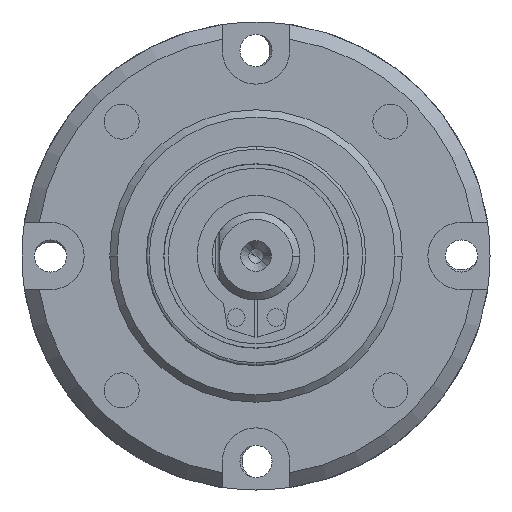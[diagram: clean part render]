
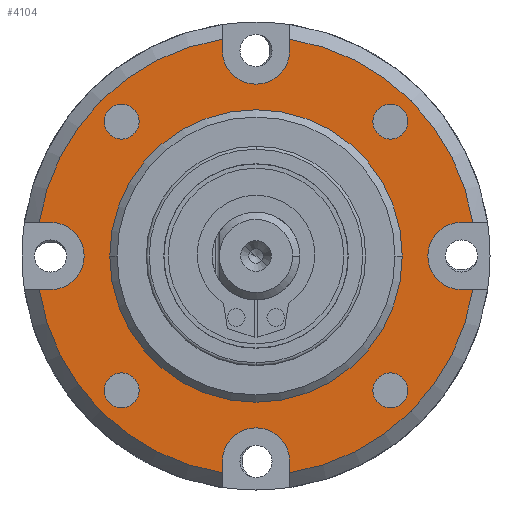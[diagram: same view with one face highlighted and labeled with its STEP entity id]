
A CAD part, left-side view. The second image highlights one B-rep face of the part: STEP entity #4104.
In plain terms, the highlighted planar face has unit normal (-1, 0, 0).
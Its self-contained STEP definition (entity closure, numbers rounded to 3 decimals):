
#646=CARTESIAN_POINT('',(-6.5,-14.823,
-2.3));
#668=CARTESIAN_POINT('',(-6.5,-2.3,
-14.823));
#695=CARTESIAN_POINT('',(-6.5,2.3,-14.823));
#717=CARTESIAN_POINT('',(-6.5,14.823,-2.3));
#744=CARTESIAN_POINT('',(-6.5,14.823,2.3));
#766=CARTESIAN_POINT('',(-6.5,2.3,14.823));
#793=CARTESIAN_POINT('',(-6.5,-2.3,14.823));
#815=CARTESIAN_POINT('',(-6.5,-14.823,2.3));
#827=CARTESIAN_POINT('',(-6.5,0.,0.));
#828=DIRECTION('',(-1.,0.,0.));
#829=DIRECTION('',(0.,0.153,0.988));
#830=AXIS2_PLACEMENT_3D('',#827,#828,#829);
#835=DIRECTION('',(0.,0.,-1.));
#836=VECTOR('',#835,0.773);
#837=CARTESIAN_POINT('',(-6.5,2.3,14.823));
#838=LINE('',#837,#836);
#842=CARTESIAN_POINT('',(-6.5,0.,14.05));
#843=DIRECTION('',(-1.,0.,0.));
#844=DIRECTION('',(0.,1.,0.));
#845=AXIS2_PLACEMENT_3D('',#842,#843,#844);
#850=DIRECTION('',(0.,0.,-1.));
#851=VECTOR('',#850,0.773);
#852=CARTESIAN_POINT('',(-6.5,-2.3,14.823));
#853=LINE('',#852,#851);
#857=CARTESIAN_POINT('',(-6.5,0.,0.));
#858=DIRECTION('',(-1.,0.,0.));
#859=DIRECTION('',(0.,-0.988,0.153));
#860=AXIS2_PLACEMENT_3D('',#857,#858,#859);
#865=DIRECTION('',(0.,1.,0.));
#866=VECTOR('',#865,0.773);
#867=CARTESIAN_POINT('',(-6.5,-14.823,2.3));
#868=LINE('',#867,#866);
#872=CARTESIAN_POINT('',(-6.5,-14.05,0.));
#873=DIRECTION('',(-1.,0.,0.));
#874=DIRECTION('',(0.,0.,1.));
#875=AXIS2_PLACEMENT_3D('',#872,#873,#874);
#880=DIRECTION('',(0.,1.,0.));
#881=VECTOR('',#880,0.773);
#882=CARTESIAN_POINT('',(-6.5,-14.823,
-2.3));
#883=LINE('',#882,#881);
#887=CARTESIAN_POINT('',(-6.5,0.,0.));
#888=DIRECTION('',(-1.,0.,0.));
#889=DIRECTION('',(0.,-0.153,-0.988));
#890=AXIS2_PLACEMENT_3D('',#887,#888,#889);
#895=DIRECTION('',(0.,0.,1.));
#896=VECTOR('',#895,0.773);
#897=CARTESIAN_POINT('',(-6.5,-2.3,
-14.823));
#898=LINE('',#897,#896);
#902=CARTESIAN_POINT('',(-6.5,0.,-14.05));
#903=DIRECTION('',(-1.,0.,0.));
#904=DIRECTION('',(0.,-1.,0.));
#905=AXIS2_PLACEMENT_3D('',#902,#903,#904);
#910=DIRECTION('',(0.,0.,1.));
#911=VECTOR('',#910,0.773);
#912=CARTESIAN_POINT('',(-6.5,2.3,-14.823));
#913=LINE('',#912,#911);
#917=CARTESIAN_POINT('',(-6.5,0.,0.));
#918=DIRECTION('',(-1.,0.,0.));
#919=DIRECTION('',(0.,0.988,-0.153));
#920=AXIS2_PLACEMENT_3D('',#917,#918,#919);
#925=DIRECTION('',(0.,-1.,0.));
#926=VECTOR('',#925,0.773);
#927=CARTESIAN_POINT('',(-6.5,14.823,-2.3));
#928=LINE('',#927,#926);
#932=CARTESIAN_POINT('',(-6.5,14.05,0.));
#933=DIRECTION('',(-1.,0.,0.));
#934=DIRECTION('',(0.,0.,-1.));
#935=AXIS2_PLACEMENT_3D('',#932,#933,#934);
#940=DIRECTION('',(0.,-1.,0.));
#941=VECTOR('',#940,0.773);
#942=CARTESIAN_POINT('',(-6.5,14.823,2.3));
#943=LINE('',#942,#941);
#947=CARTESIAN_POINT('',(-6.5,9.192,-9.192));
#948=DIRECTION('',(1.,0.,0.));
#949=DIRECTION('',(0.,1.,0.));
#950=AXIS2_PLACEMENT_3D('',#947,#948,#949);
#955=CARTESIAN_POINT('',(-6.5,9.192,-9.192));
#956=DIRECTION('',(1.,0.,0.));
#957=DIRECTION('',(0.,-1.,0.));
#958=AXIS2_PLACEMENT_3D('',#955,#956,#957);
#963=CARTESIAN_POINT('',(-6.5,-9.192,-9.192));
#964=DIRECTION('',(1.,0.,0.));
#965=DIRECTION('',(0.,0.,-1.));
#966=AXIS2_PLACEMENT_3D('',#963,#964,#965);
#971=CARTESIAN_POINT('',(-6.5,-9.192,-9.192));
#972=DIRECTION('',(1.,0.,0.));
#973=DIRECTION('',(0.,0.,1.));
#974=AXIS2_PLACEMENT_3D('',#971,#972,#973);
#979=CARTESIAN_POINT('',(-6.5,-9.192,9.192));
#980=DIRECTION('',(1.,0.,0.));
#981=DIRECTION('',(0.,-1.,0.));
#982=AXIS2_PLACEMENT_3D('',#979,#980,#981);
#987=CARTESIAN_POINT('',(-6.5,-9.192,9.192));
#988=DIRECTION('',(1.,0.,0.));
#989=DIRECTION('',(0.,1.,0.));
#990=AXIS2_PLACEMENT_3D('',#987,#988,#989);
#995=CARTESIAN_POINT('',(-6.5,9.192,9.192));
#996=DIRECTION('',(1.,0.,0.));
#997=DIRECTION('',(0.,0.,1.));
#998=AXIS2_PLACEMENT_3D('',#995,#996,#997);
#1003=CARTESIAN_POINT('',(-6.5,9.192,9.192));
#1004=DIRECTION('',(1.,0.,0.));
#1005=DIRECTION('',(0.,0.,-1.));
#1006=AXIS2_PLACEMENT_3D('',#1003,#1004,#1005);
#1040=CARTESIAN_POINT('',(-6.5,0.,0.));
#1041=DIRECTION('',(-1.,0.,0.));
#1042=DIRECTION('',(0.,1.,0.));
#1043=AXIS2_PLACEMENT_3D('',#1040,#1041,#1042);
#1109=CARTESIAN_POINT('',(-6.5,0.,0.));
#1110=DIRECTION('',(1.,0.,0.));
#1111=DIRECTION('',(0.,1.,0.));
#1112=AXIS2_PLACEMENT_3D('',#1109,#1110,#1111);
#2863=CARTESIAN_POINT('',(-6.5,10.,0.));
#2864=CARTESIAN_POINT('',(-6.5,-10.,0.));
#2865=VERTEX_POINT('',#2863);
#2866=VERTEX_POINT('',#2864);
#2879=CARTESIAN_POINT('',(-6.5,14.05,-2.3));
#2880=CARTESIAN_POINT('',(-6.5,14.05,2.3));
#2881=VERTEX_POINT('',#2879);
#2882=VERTEX_POINT('',#2880);
#2897=CARTESIAN_POINT('',(-6.5,-2.3,-14.05));
#2898=VERTEX_POINT('',#2897);
#2899=CARTESIAN_POINT('',(-6.5,2.3,-14.05));
#2900=VERTEX_POINT('',#2899);
#2909=CARTESIAN_POINT('',(-6.5,-14.05,2.3));
#2910=VERTEX_POINT('',#2909);
#2911=CARTESIAN_POINT('',(-6.5,-14.05,-2.3));
#2912=VERTEX_POINT('',#2911);
#2921=CARTESIAN_POINT('',(-6.5,2.3,14.05));
#2922=VERTEX_POINT('',#2921);
#2923=CARTESIAN_POINT('',(-6.5,-2.3,14.05));
#2924=VERTEX_POINT('',#2923);
#2951=VERTEX_POINT('',#744);
#2955=VERTEX_POINT('',#766);
#2956=VERTEX_POINT('',#695);
#2960=VERTEX_POINT('',#717);
#2961=VERTEX_POINT('',#646);
#2965=VERTEX_POINT('',#668);
#2966=VERTEX_POINT('',#793);
#2970=VERTEX_POINT('',#815);
#2983=CARTESIAN_POINT('',(-6.5,10.392,-9.192));
#2984=CARTESIAN_POINT('',(-6.5,7.992,-9.192));
#2985=VERTEX_POINT('',#2983);
#2986=VERTEX_POINT('',#2984);
#2995=CARTESIAN_POINT('',(-6.5,-9.192,-10.392));
#2996=VERTEX_POINT('',#2995);
#2997=CARTESIAN_POINT('',(-6.5,-9.192,-7.992));
#2998=VERTEX_POINT('',#2997);
#3003=CARTESIAN_POINT('',(-6.5,-10.392,9.192));
#3004=VERTEX_POINT('',#3003);
#3005=CARTESIAN_POINT('',(-6.5,-7.992,9.192));
#3006=VERTEX_POINT('',#3005);
#3011=CARTESIAN_POINT('',(-6.5,9.192,10.392));
#3012=VERTEX_POINT('',#3011);
#3013=CARTESIAN_POINT('',(-6.5,9.192,7.992));
#3014=VERTEX_POINT('',#3013);
#4048=CARTESIAN_POINT('',(-6.5,0.,0.));
#4049=DIRECTION('',(-1.,0.,0.));
#4050=DIRECTION('',(0.,1.,0.));
#4051=AXIS2_PLACEMENT_3D('',#4048,#4049,#4050);
#4052=PLANE('',#4051);
#4053=ORIENTED_EDGE('',*,*,#3949,.F.);
#4054=ORIENTED_EDGE('',*,*,#3965,.T.);
#4056=ORIENTED_EDGE('',*,*,#4055,.T.);
#4057=ORIENTED_EDGE('',*,*,#3997,.F.);
#4058=ORIENTED_EDGE('',*,*,#4015,.F.);
#4059=ORIENTED_EDGE('',*,*,#4030,.T.);
#4060=ORIENTED_EDGE('',*,*,#4043,.T.);
#4061=ORIENTED_EDGE('',*,*,#3798,.F.);
#4062=ORIENTED_EDGE('',*,*,#3816,.F.);
#4063=ORIENTED_EDGE('',*,*,#3832,.T.);
#4065=ORIENTED_EDGE('',*,*,#4064,.T.);
#4066=ORIENTED_EDGE('',*,*,#3864,.F.);
#4067=ORIENTED_EDGE('',*,*,#3882,.F.);
#4068=ORIENTED_EDGE('',*,*,#3898,.T.);
#4070=ORIENTED_EDGE('',*,*,#4069,.T.);
#4071=ORIENTED_EDGE('',*,*,#3931,.F.);
#4072=EDGE_LOOP('',(#4053,#4054,#4056,#4057,#4058,#4059,#4060,#4061,#4062,#4063,
#4065,#4066,#4067,#4068,#4070,#4071));
#4073=FACE_OUTER_BOUND('',#4072,.F.);
#4075=ORIENTED_EDGE('',*,*,#4074,.T.);
#4077=ORIENTED_EDGE('',*,*,#4076,.F.);
#4078=EDGE_LOOP('',(#4075,#4077));
#4079=FACE_BOUND('',#4078,.F.);
#4081=ORIENTED_EDGE('',*,*,#4080,.F.);
#4083=ORIENTED_EDGE('',*,*,#4082,.F.);
#4084=EDGE_LOOP('',(#4081,#4083));
#4085=FACE_BOUND('',#4084,.F.);
#4087=ORIENTED_EDGE('',*,*,#4086,.F.);
#4089=ORIENTED_EDGE('',*,*,#4088,.F.);
#4090=EDGE_LOOP('',(#4087,#4089));
#4091=FACE_BOUND('',#4090,.F.);
#4093=ORIENTED_EDGE('',*,*,#4092,.F.);
#4095=ORIENTED_EDGE('',*,*,#4094,.F.);
#4096=EDGE_LOOP('',(#4093,#4095));
#4097=FACE_BOUND('',#4096,.F.);
#4099=ORIENTED_EDGE('',*,*,#4098,.F.);
#4101=ORIENTED_EDGE('',*,*,#4100,.F.);
#4102=EDGE_LOOP('',(#4099,#4101));
#4103=FACE_BOUND('',#4102,.F.);
#4104=ADVANCED_FACE('',(#4073,#4079,#4085,#4091,#4097,#4103),#4052,.T.);
#831=CIRCLE('',#830,15.);
#846=CIRCLE('',#845,2.3);
#861=CIRCLE('',#860,15.);
#876=CIRCLE('',#875,2.3);
#891=CIRCLE('',#890,15.);
#906=CIRCLE('',#905,2.3);
#921=CIRCLE('',#920,15.);
#936=CIRCLE('',#935,2.3);
#951=CIRCLE('',#950,1.2);
#959=CIRCLE('',#958,1.2);
#967=CIRCLE('',#966,1.2);
#975=CIRCLE('',#974,1.2);
#983=CIRCLE('',#982,1.2);
#991=CIRCLE('',#990,1.2);
#999=CIRCLE('',#998,1.2);
#1007=CIRCLE('',#1006,1.2);
#1044=CIRCLE('',#1043,10.);
#1113=CIRCLE('',#1112,10.);
#3798=EDGE_CURVE('',#2961,#2912,#883,.T.);
#3816=EDGE_CURVE('',#2965,#2961,#891,.T.);
#3832=EDGE_CURVE('',#2965,#2898,#898,.T.);
#3864=EDGE_CURVE('',#2956,#2900,#913,.T.);
#3882=EDGE_CURVE('',#2960,#2956,#921,.T.);
#3898=EDGE_CURVE('',#2960,#2881,#928,.T.);
#3931=EDGE_CURVE('',#2951,#2882,#943,.T.);
#3949=EDGE_CURVE('',#2955,#2951,#831,.T.);
#3965=EDGE_CURVE('',#2955,#2922,#838,.T.);
#3997=EDGE_CURVE('',#2966,#2924,#853,.T.);
#4015=EDGE_CURVE('',#2970,#2966,#861,.T.);
#4030=EDGE_CURVE('',#2970,#2910,#868,.T.);
#4043=EDGE_CURVE('',#2910,#2912,#876,.T.);
#4055=EDGE_CURVE('',#2922,#2924,#846,.T.);
#4064=EDGE_CURVE('',#2898,#2900,#906,.T.);
#4069=EDGE_CURVE('',#2881,#2882,#936,.T.);
#4074=EDGE_CURVE('',#2865,#2866,#1044,.T.);
#4076=EDGE_CURVE('',#2865,#2866,#1113,.T.);
#4080=EDGE_CURVE('',#2985,#2986,#951,.T.);
#4082=EDGE_CURVE('',#2986,#2985,#959,.T.);
#4086=EDGE_CURVE('',#2996,#2998,#967,.T.);
#4088=EDGE_CURVE('',#2998,#2996,#975,.T.);
#4092=EDGE_CURVE('',#3004,#3006,#983,.T.);
#4094=EDGE_CURVE('',#3006,#3004,#991,.T.);
#4098=EDGE_CURVE('',#3012,#3014,#999,.T.);
#4100=EDGE_CURVE('',#3014,#3012,#1007,.T.);
